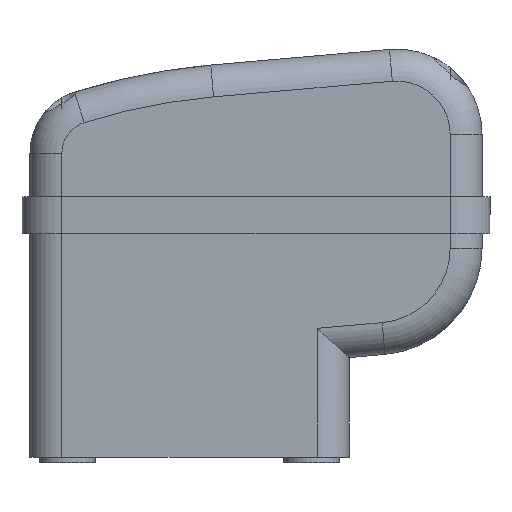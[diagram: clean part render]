
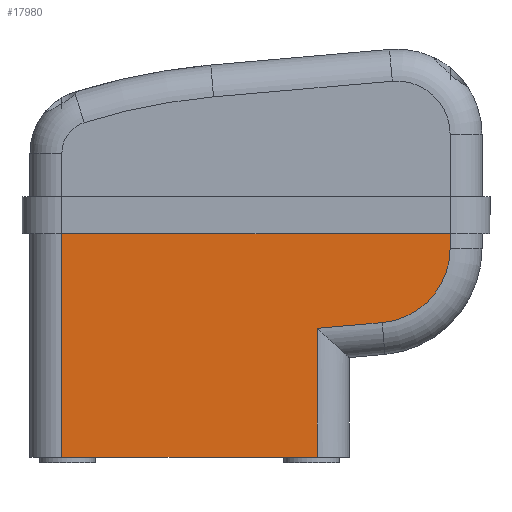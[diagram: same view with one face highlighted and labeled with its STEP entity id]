
A CAD part, front view. The second image highlights one B-rep face of the part: STEP entity #17980.
In plain terms, the highlighted planar face has unit normal (0, -1, 0).
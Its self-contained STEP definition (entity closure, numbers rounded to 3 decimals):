
#1197 = VERTEX_POINT ( 'NONE', #16146 ) ;
#1963 = ORIENTED_EDGE ( 'NONE', *, *, #13930, .F. ) ;
#2294 = DIRECTION ( 'NONE',  ( 0., 0., 1. ) ) ;
#2536 = ORIENTED_EDGE ( 'NONE', *, *, #13292, .T. ) ;
#2556 = DIRECTION ( 'NONE',  ( 0., 0., 1. ) ) ;
#2624 = LINE ( 'NONE', #5743, #12930 ) ;
#2719 = DIRECTION ( 'NONE',  ( -1., 0., 0. ) ) ;
#2732 = CARTESIAN_POINT ( 'NONE',  ( -14., -112.5, 0. ) ) ;
#2920 = CARTESIAN_POINT ( 'NONE',  ( 30., -112.5, 10.848 ) ) ;
#3376 = ORIENTED_EDGE ( 'NONE', *, *, #12933, .T. ) ;
#3633 = EDGE_CURVE ( 'NONE', #4653, #5684, #11771, .T. ) ;
#3674 = LINE ( 'NONE', #14625, #3865 ) ;
#3682 = LINE ( 'NONE', #9283, #8660 ) ;
#3865 = VECTOR ( 'NONE', #6315, 1000. ) ;
#4032 = LINE ( 'NONE', #2732, #16464 ) ;
#4207 = CARTESIAN_POINT ( 'NONE',  ( 59., -112.5, 39.264 ) ) ;
#4260 = CARTESIAN_POINT ( 'NONE',  ( 34., -112.5, 24.248 ) ) ;
#4296 = DIRECTION ( 'NONE',  ( 0., 0., -1. ) ) ;
#4653 = VERTEX_POINT ( 'NONE', #12970 ) ;
#4783 = EDGE_CURVE ( 'NONE', #16014, #4653, #3674, .T. ) ;
#4985 = VECTOR ( 'NONE', #2556, 1000. ) ;
#5141 = LINE ( 'NONE', #12415, #4985 ) ;
#5219 = DIRECTION ( 'NONE',  ( 1., 0., 0. ) ) ;
#5307 = ORIENTED_EDGE ( 'NONE', *, *, #3633, .T. ) ;
#5684 = VERTEX_POINT ( 'NONE', #4207 ) ;
#5743 = CARTESIAN_POINT ( 'NONE',  ( -20., -112.5, 0. ) ) ;
#5820 = ORIENTED_EDGE ( 'NONE', *, *, #11099, .T. ) ;
#5892 = CARTESIAN_POINT ( 'NONE',  ( 59., -112.5, 44. ) ) ;
#6309 = CARTESIAN_POINT ( 'NONE',  ( 62., -112.5, 44. ) ) ;
#6315 = DIRECTION ( 'NONE',  ( 0.996, 0., 0.087 ) ) ;
#8007 = VERTEX_POINT ( 'NONE', #5892 ) ;
#8381 = EDGE_CURVE ( 'NONE', #10045, #8007, #13510, .T. ) ;
#8660 = VECTOR ( 'NONE', #2294, 1000. ) ;
#9283 = CARTESIAN_POINT ( 'NONE',  ( 34., -112.5, 19.899 ) ) ;
#10007 = PLANE ( 'NONE',  #12269 ) ;
#10045 = VERTEX_POINT ( 'NONE', #17614 ) ;
#10830 = DIRECTION ( 'NONE',  ( 0., -1., 0. ) ) ;
#11099 = EDGE_CURVE ( 'NONE', #1197, #16014, #3682, .T. ) ;
#11110 = ORIENTED_EDGE ( 'NONE', *, *, #8381, .F. ) ;
#11677 = DIRECTION ( 'NONE',  ( 0., -1., 0. ) ) ;
#11771 = CIRCLE ( 'NONE', #14111, 14. ) ;
#12269 = AXIS2_PLACEMENT_3D ( 'NONE', #2920, #11677, #17200 ) ;
#12415 = CARTESIAN_POINT ( 'NONE',  ( 59., -112.5, 44. ) ) ;
#12804 = EDGE_LOOP ( 'NONE', ( #5820, #16596, #5307, #2536, #11110, #3376, #1963 ) ) ;
#12930 = VECTOR ( 'NONE', #2719, 1000. ) ;
#12933 = EDGE_CURVE ( 'NONE', #10045, #16546, #4032, .T. ) ;
#12970 = CARTESIAN_POINT ( 'NONE',  ( 46.22, -112.5, 25.317 ) ) ;
#13292 = EDGE_CURVE ( 'NONE', #5684, #8007, #5141, .T. ) ;
#13499 = CARTESIAN_POINT ( 'NONE',  ( 45., -112.5, 39.264 ) ) ;
#13510 = LINE ( 'NONE', #6309, #15462 ) ;
#13930 = EDGE_CURVE ( 'NONE', #1197, #16546, #2624, .T. ) ;
#14111 = AXIS2_PLACEMENT_3D ( 'NONE', #13499, #10830, #17849 ) ;
#14625 = CARTESIAN_POINT ( 'NONE',  ( 28.867, -112.5, 23.799 ) ) ;
#14732 = CARTESIAN_POINT ( 'NONE',  ( -14., -112.5, 0. ) ) ;
#15462 = VECTOR ( 'NONE', #5219, 1000. ) ;
#16014 = VERTEX_POINT ( 'NONE', #4260 ) ;
#16146 = CARTESIAN_POINT ( 'NONE',  ( 34., -112.5, 0. ) ) ;
#16464 = VECTOR ( 'NONE', #4296, 1000. ) ;
#16546 = VERTEX_POINT ( 'NONE', #14732 ) ;
#16596 = ORIENTED_EDGE ( 'NONE', *, *, #4783, .T. ) ;
#17113 = FACE_OUTER_BOUND ( 'NONE', #12804, .T. ) ;
#17200 = DIRECTION ( 'NONE',  ( 0., 0., -1. ) ) ;
#17614 = CARTESIAN_POINT ( 'NONE',  ( -14., -112.5, 44. ) ) ;
#17849 = DIRECTION ( 'NONE',  ( 0., 0., -1. ) ) ;
#17980 = ADVANCED_FACE ( 'NONE', ( #17113 ), #10007, .T. ) ;
